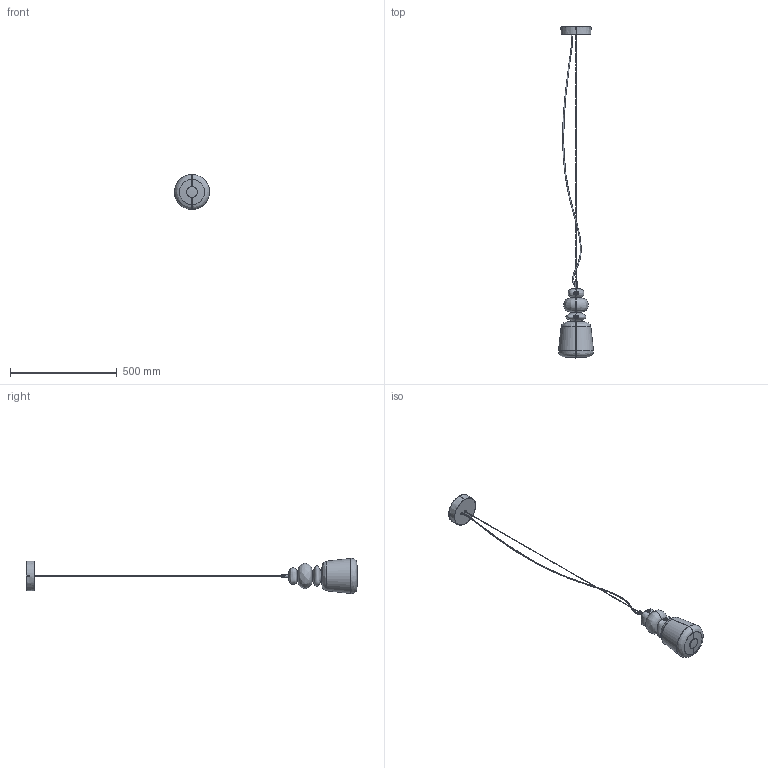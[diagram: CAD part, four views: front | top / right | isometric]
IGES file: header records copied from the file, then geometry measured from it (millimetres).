
Start section: SolidWorks IGES file using analytic representation for surfaces
Global section: file name: Y:\PRODUKT\Modele_3D_WWW\_KOLEKCJE_WWW\CERAMIC\CERAMIC-VERTICAL-LED-12W-11702\ceramiczna wisz¹ca krótka.IGS; native system: SolidWorks 2024; preprocessor: SolidWorks 2024; author: anna.bielnik; date: 250228.073705; units: millimetre
Bounding box: 164.03 x 1554.18 x 164.28 mm (x, y, z)
Surface area: 415374.2 mm2 (no closed solid volume)
Topology: 0 solids, 0 shells, 163 faces, 4216 edges, 4216 vertices
Faces by surface type: bspline 84, revolution 79
